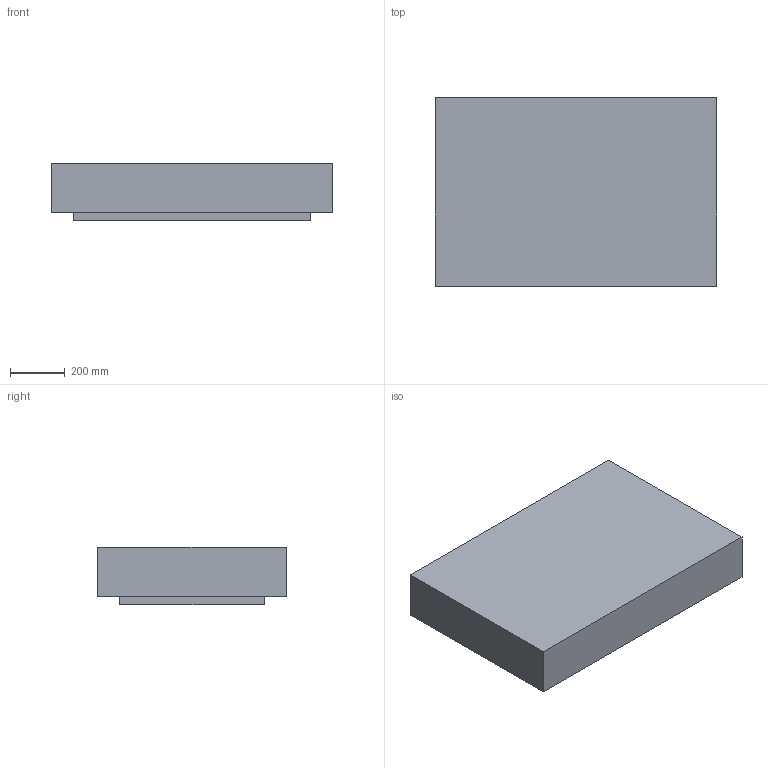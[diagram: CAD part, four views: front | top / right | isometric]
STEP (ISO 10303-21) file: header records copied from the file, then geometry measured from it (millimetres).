
FILE_DESCRIPTION(/* description */ (''),/* implementation_level */ '2;1');
FILE_NAME(/* name */ 'Mass Wide Coffee Table',/* time_stamp */ '2019-04-16T14:13:53+02:00',/* author */ (''),/* organization */ (''),/* preprocessor_version */ 'ST-DEVELOPER v15',/* originating_system */ '',/* authorisation */ '');
FILE_SCHEMA (('AUTOMOTIVE_DESIGN'));
Length unit declared in the file: millimetre
Products named in the file (1): Document
Bounding box: 1030 x 690 x 210 mm (x, y, z)
Surface area: 3046800 mm2 (no closed solid volume)
Topology: 0 solids, 12 shells, 12 faces, 48 edges, 48 vertices
Faces by surface type: plane 12
Entity records: 480 total; most frequent: CARTESIAN_POINT 158, ORIENTED_EDGE 48, EDGE_CURVE 48, B_SPLINE_CURVE_WITH_KNOTS 48, VERTEX_POINT 48, DIRECTION 16, AXIS2_PLACEMENT_3D 14, PRESENTATION_LAYER_ASSIGNMENT 12
